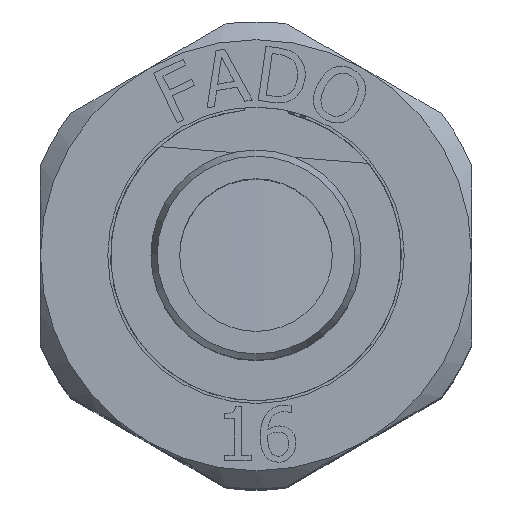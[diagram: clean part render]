
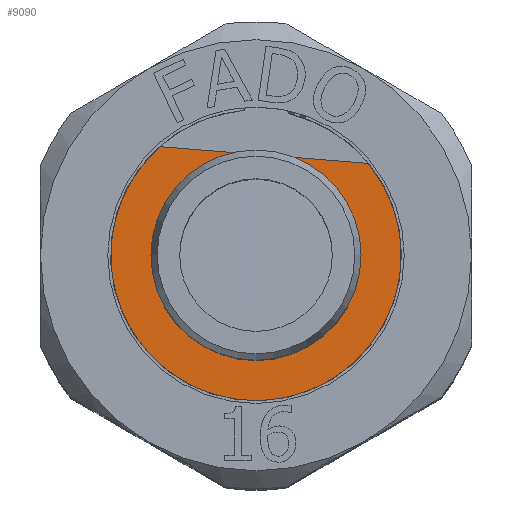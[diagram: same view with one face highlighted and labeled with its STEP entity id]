
A CAD part, top view. The second image highlights one B-rep face of the part: STEP entity #9090.
In plain terms, the highlighted planar face has unit normal (0, 0, 1) as drawn and (0, 0, -1) by its records, which use the part's own axes.
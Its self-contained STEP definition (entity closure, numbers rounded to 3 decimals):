
#961=FACE_BOUND('',#1990,.T.);
#1158=PLANE('',#9739);
#1442=FACE_OUTER_BOUND('',#1989,.T.);
#1989=EDGE_LOOP('',(#7140,#7141));
#1990=EDGE_LOOP('',(#7142,#7143));
#2417=CIRCLE('',#9737,5.85);
#2418=CIRCLE('',#9738,5.85);
#2419=CIRCLE('',#9740,8.25);
#2420=CIRCLE('',#9741,8.25);
#4035=VERTEX_POINT('',#29220);
#4036=VERTEX_POINT('',#29221);
#4037=VERTEX_POINT('',#29226);
#4038=VERTEX_POINT('',#29227);
#5168=EDGE_CURVE('',#4035,#4036,#2417,.T.);
#5169=EDGE_CURVE('',#4036,#4035,#2418,.T.);
#5171=EDGE_CURVE('',#4037,#4038,#2419,.T.);
#5172=EDGE_CURVE('',#4038,#4037,#2420,.T.);
#7140=ORIENTED_EDGE('',*,*,#5171,.F.);
#7141=ORIENTED_EDGE('',*,*,#5172,.F.);
#7142=ORIENTED_EDGE('',*,*,#5168,.T.);
#7143=ORIENTED_EDGE('',*,*,#5169,.T.);
#9090=ADVANCED_FACE('',(#1442,#961),#1158,.T.);
#9737=AXIS2_PLACEMENT_3D('',#29222,#10747,#10748);
#9738=AXIS2_PLACEMENT_3D('',#29223,#10749,#10750);
#9739=AXIS2_PLACEMENT_3D('',#29225,#10752,#10753);
#9740=AXIS2_PLACEMENT_3D('',#29228,#10754,#10755);
#9741=AXIS2_PLACEMENT_3D('',#29229,#10756,#10757);
#10747=DIRECTION('center_axis',(0.,0.,1.));
#10748=DIRECTION('ref_axis',(1.,0.,0.));
#10749=DIRECTION('center_axis',(0.,0.,1.));
#10750=DIRECTION('ref_axis',(1.,0.,0.));
#10752=DIRECTION('center_axis',(0.,0.,-1.));
#10753=DIRECTION('ref_axis',(-1.,0.,0.));
#10754=DIRECTION('center_axis',(0.,0.,1.));
#10755=DIRECTION('ref_axis',(1.,0.,0.));
#10756=DIRECTION('center_axis',(0.,0.,1.));
#10757=DIRECTION('ref_axis',(1.,0.,0.));
#29220=CARTESIAN_POINT('',(0.,-5.85,-7.1));
#29221=CARTESIAN_POINT('',(0.,5.85,-7.1));
#29222=CARTESIAN_POINT('Origin',(0.,0.,-7.1));
#29223=CARTESIAN_POINT('Origin',(0.,0.,-7.1));
#29225=CARTESIAN_POINT('Origin',(0.,-8.25,-7.1));
#29226=CARTESIAN_POINT('',(0.,-8.25,-7.1));
#29227=CARTESIAN_POINT('',(0.,8.25,-7.1));
#29228=CARTESIAN_POINT('Origin',(0.,0.,-7.1));
#29229=CARTESIAN_POINT('Origin',(0.,0.,-7.1));
